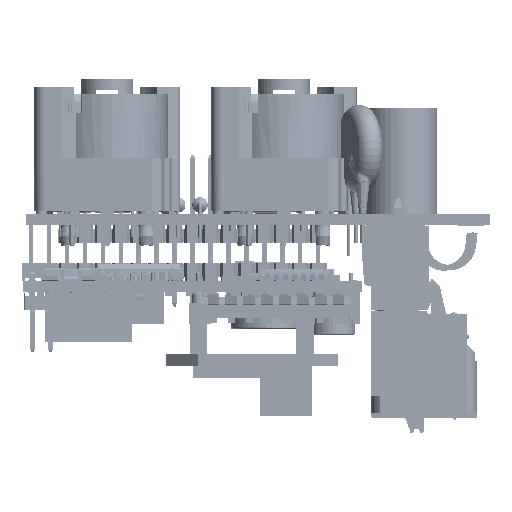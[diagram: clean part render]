
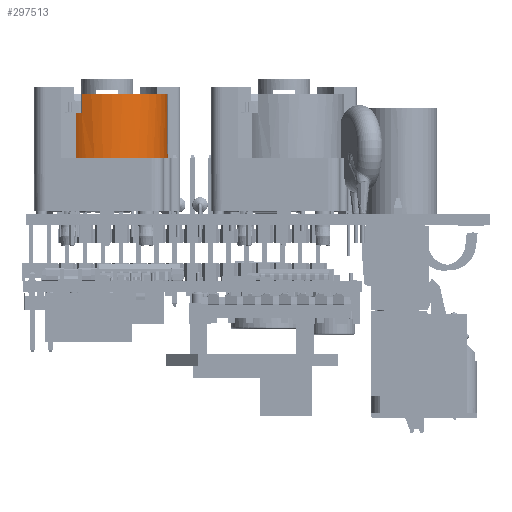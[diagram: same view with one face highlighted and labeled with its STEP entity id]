
A CAD part, left-side view. The second image highlights one B-rep face of the part: STEP entity #297513.
In plain terms, the highlighted cylindrical face has radius 8.55 mm (diameter 17.1 mm), a partial arc.
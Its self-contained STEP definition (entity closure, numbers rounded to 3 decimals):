
#36229=LINE('',#495832,#69168);
#36254=LINE('',#495892,#69193);
#36255=LINE('',#495897,#69194);
#69168=VECTOR('',#378968,9.);
#69193=VECTOR('',#379035,6.4);
#69194=VECTOR('',#379040,2.6);
#83754=CYLINDRICAL_SURFACE('',#318919,8.55);
#94982=FACE_OUTER_BOUND('',#112635,.T.);
#112635=EDGE_LOOP('',(#250687,#250688,#250689,#250690,#250691,#250692,#250693,
#250694,#250695,#250696,#250697,#250698,#250699,#250700));
#124493=CIRCLE('',#318327,8.55);
#124511=CIRCLE('',#318349,8.55);
#124512=CIRCLE('',#318352,8.55);
#124513=CIRCLE('',#318355,8.55);
#124584=CIRCLE('',#318520,8.55);
#124585=CIRCLE('',#318522,8.55);
#124592=CIRCLE('',#318586,8.55);
#124630=CIRCLE('',#318890,8.55);
#124636=CIRCLE('',#318913,8.55);
#124638=CIRCLE('',#318920,8.55);
#124639=CIRCLE('',#318921,8.55);
#144566=VERTEX_POINT('',#493724);
#144569=VERTEX_POINT('',#493732);
#144613=VERTEX_POINT('',#493823);
#144620=VERTEX_POINT('',#493838);
#144625=VERTEX_POINT('',#493850);
#144629=VERTEX_POINT('',#493859);
#144632=VERTEX_POINT('',#493868);
#144635=VERTEX_POINT('',#493878);
#144636=VERTEX_POINT('',#493879);
#145128=VERTEX_POINT('',#495810);
#145132=VERTEX_POINT('',#495830);
#145145=VERTEX_POINT('',#495888);
#145147=VERTEX_POINT('',#495894);
#145148=VERTEX_POINT('',#495896);
#181257=EDGE_CURVE('',#144566,#144569,#124493,.T.);
#181315=EDGE_CURVE('',#144613,#144625,#124511,.T.);
#181324=EDGE_CURVE('',#144629,#144632,#124512,.T.);
#181328=EDGE_CURVE('',#144635,#144636,#124513,.T.);
#181639=EDGE_CURVE('',#144632,#144620,#124584,.T.);
#181642=EDGE_CURVE('',#144569,#144613,#124585,.T.);
#181737=EDGE_CURVE('',#144620,#144636,#124592,.T.);
#182222=EDGE_CURVE('',#144566,#145128,#124630,.T.);
#182233=EDGE_CURVE('',#144635,#145132,#36229,.T.);
#182250=EDGE_CURVE('',#144629,#144625,#124636,.T.);
#182263=EDGE_CURVE('',#145145,#145128,#36254,.T.);
#182264=EDGE_CURVE('',#145132,#145147,#124638,.T.);
#182265=EDGE_CURVE('',#145147,#145148,#36255,.T.);
#182266=EDGE_CURVE('',#145148,#145145,#124639,.T.);
#250687=ORIENTED_EDGE('',*,*,#181324,.T.);
#250688=ORIENTED_EDGE('',*,*,#181639,.T.);
#250689=ORIENTED_EDGE('',*,*,#181737,.T.);
#250690=ORIENTED_EDGE('',*,*,#181328,.F.);
#250691=ORIENTED_EDGE('',*,*,#182233,.T.);
#250692=ORIENTED_EDGE('',*,*,#182264,.T.);
#250693=ORIENTED_EDGE('',*,*,#182265,.T.);
#250694=ORIENTED_EDGE('',*,*,#182266,.T.);
#250695=ORIENTED_EDGE('',*,*,#182263,.T.);
#250696=ORIENTED_EDGE('',*,*,#182222,.F.);
#250697=ORIENTED_EDGE('',*,*,#181257,.T.);
#250698=ORIENTED_EDGE('',*,*,#181642,.T.);
#250699=ORIENTED_EDGE('',*,*,#181315,.T.);
#250700=ORIENTED_EDGE('',*,*,#182250,.F.);
#297513=ADVANCED_FACE('',(#94982),#83754,.T.);
#318327=AXIS2_PLACEMENT_3D('',#493734,#377019,#377020);
#318349=AXIS2_PLACEMENT_3D('',#493852,#377103,#377104);
#318352=AXIS2_PLACEMENT_3D('',#493870,#377117,#377118);
#318355=AXIS2_PLACEMENT_3D('',#493880,#377126,#377127);
#318520=AXIS2_PLACEMENT_3D('',#494612,#377671,#377672);
#318522=AXIS2_PLACEMENT_3D('',#494617,#377677,#377678);
#318586=AXIS2_PLACEMENT_3D('',#494817,#377891,#377892);
#318890=AXIS2_PLACEMENT_3D('',#495812,#378944,#378945);
#318913=AXIS2_PLACEMENT_3D('',#495867,#379012,#379013);
#318919=AXIS2_PLACEMENT_3D('',#495893,#379036,#379037);
#318920=AXIS2_PLACEMENT_3D('',#495895,#379038,#379039);
#318921=AXIS2_PLACEMENT_3D('',#495898,#379041,#379042);
#377019=DIRECTION('center_axis',(0.,0.,
1.));
#377020=DIRECTION('ref_axis',(-1.,0.,0.));
#377103=DIRECTION('center_axis',(0.,0.,
1.));
#377104=DIRECTION('ref_axis',(-1.,0.,0.));
#377117=DIRECTION('center_axis',(0.,0.,
1.));
#377118=DIRECTION('ref_axis',(-1.,0.,0.));
#377126=DIRECTION('center_axis',(0.,0.,
-1.));
#377127=DIRECTION('ref_axis',(-1.,0.,0.));
#377671=DIRECTION('center_axis',(0.,0.,
1.));
#377672=DIRECTION('ref_axis',(-1.,0.,0.));
#377677=DIRECTION('center_axis',(0.,0.,
1.));
#377678=DIRECTION('ref_axis',(-1.,0.,0.));
#377891=DIRECTION('center_axis',(0.,0.,
1.));
#377892=DIRECTION('ref_axis',(-1.,0.,0.));
#378944=DIRECTION('center_axis',(0.,0.,
-1.));
#378945=DIRECTION('ref_axis',(-1.,0.,0.));
#378968=DIRECTION('',(0.,0.,1.));
#379012=DIRECTION('center_axis',(0.,0.,
-1.));
#379013=DIRECTION('ref_axis',(-1.,0.,0.));
#379035=DIRECTION('',(0.,0.,-1.));
#379036=DIRECTION('center_axis',(0.,0.,
1.));
#379037=DIRECTION('ref_axis',(0.64,-0.768,0.));
#379038=DIRECTION('center_axis',(0.,0.,
-1.));
#379039=DIRECTION('ref_axis',(-1.,0.,0.));
#379040=DIRECTION('',(0.,0.,-1.));
#379041=DIRECTION('center_axis',(0.,0.,
-1.));
#379042=DIRECTION('ref_axis',(-1.,0.,0.));
#493724=CARTESIAN_POINT('',(-51.166,18.768,9.502));
#493732=CARTESIAN_POINT('',(-51.194,18.693,9.502));
#493734=CARTESIAN_POINT('Origin',(-43.188,15.693,9.502));
#493823=CARTESIAN_POINT('',(-51.194,12.693,9.502));
#493838=CARTESIAN_POINT('',(-35.182,18.693,9.502));
#493850=CARTESIAN_POINT('',(-51.166,12.618,9.502));
#493852=CARTESIAN_POINT('Origin',(-43.188,15.693,9.502));
#493859=CARTESIAN_POINT('',(-35.21,12.618,9.502));
#493868=CARTESIAN_POINT('',(-35.182,12.693,9.502));
#493870=CARTESIAN_POINT('Origin',(-43.188,15.693,9.502));
#493878=CARTESIAN_POINT('',(-46.256,23.674,9.502));
#493879=CARTESIAN_POINT('',(-35.21,18.768,9.502));
#493880=CARTESIAN_POINT('Origin',(-43.188,15.693,9.502));
#494612=CARTESIAN_POINT('Origin',(-43.188,15.693,9.502));
#494617=CARTESIAN_POINT('Origin',(-43.188,15.693,9.502));
#494817=CARTESIAN_POINT('Origin',(-43.188,15.693,9.502));
#495810=CARTESIAN_POINT('',(-50.482,20.154,9.502));
#495812=CARTESIAN_POINT('Origin',(-43.188,15.693,9.502));
#495830=CARTESIAN_POINT('',(-46.256,23.674,18.502));
#495832=CARTESIAN_POINT('',(-46.256,23.674,9.502));
#495867=CARTESIAN_POINT('Origin',(-43.188,15.693,9.502));
#495888=CARTESIAN_POINT('',(-50.482,20.154,15.902));
#495892=CARTESIAN_POINT('',(-50.482,20.154,9.502));
#495893=CARTESIAN_POINT('Origin',(-43.188,15.693,9.502));
#495894=CARTESIAN_POINT('',(-50.934,19.313,18.502));
#495895=CARTESIAN_POINT('Origin',(-43.188,15.693,18.502));
#495896=CARTESIAN_POINT('',(-50.934,19.313,15.902));
#495897=CARTESIAN_POINT('',(-50.934,19.313,9.502));
#495898=CARTESIAN_POINT('Origin',(-43.188,15.693,15.902));
